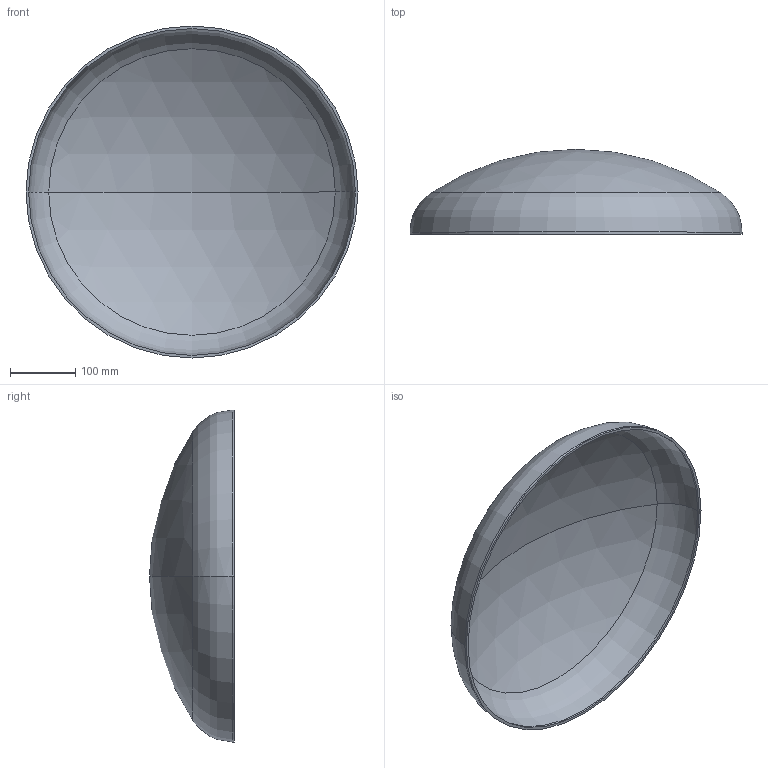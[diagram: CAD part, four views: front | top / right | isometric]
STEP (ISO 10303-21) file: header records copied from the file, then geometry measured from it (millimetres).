
FILE_DESCRIPTION (( 'STEP AP203' ), '1' );
FILE_NAME ('3D_R365_508x4_173375260.STEP', '2024-07-16T07:39:39', ( '' ), ( '' ), 'SwSTEP 2.0', 'SolidWorks 2024', '' );
FILE_SCHEMA (( 'CONFIG_CONTROL_DESIGN' ));
Length unit declared in the file: millimetre
Products named in the file (1): 3D_R365_508x4_173375260
Bounding box: 508 x 130 x 508 mm (x, y, z)
Volume: 1106502.8 mm3; surface area: 559618.1 mm2
Topology: 1 solids, 1 shells, 13 faces, 24 edges, 14 vertices
Faces by surface type: sphere 4, torus 4, cylinder 4, plane 1
Entity records: 407 total; most frequent: DIRECTION 72, CARTESIAN_POINT 52, ORIENTED_EDGE 48, AXIS2_PLACEMENT_3D 34, EDGE_CURVE 24, CIRCLE 20, EDGE_LOOP 14, VERTEX_POINT 14
